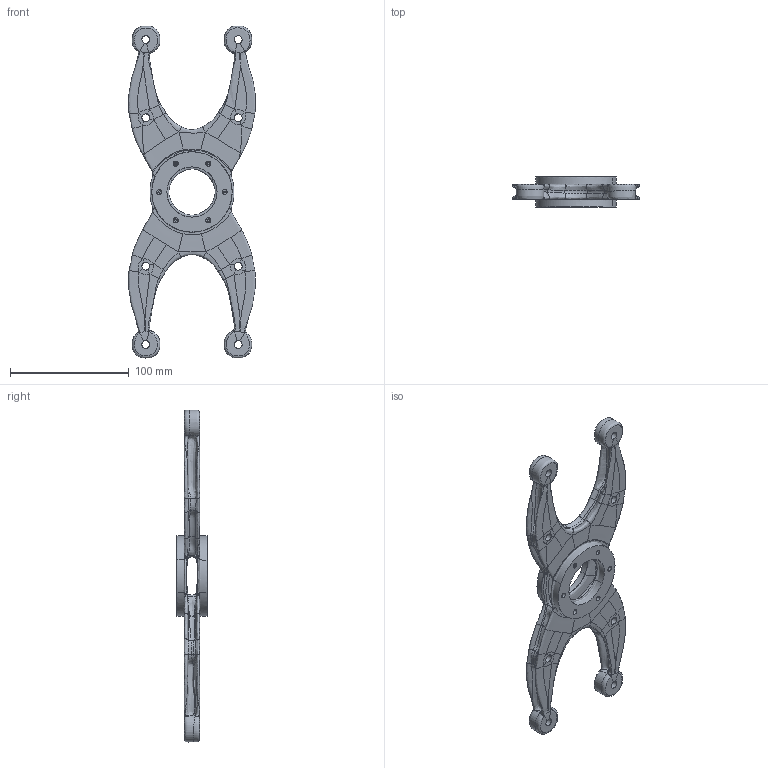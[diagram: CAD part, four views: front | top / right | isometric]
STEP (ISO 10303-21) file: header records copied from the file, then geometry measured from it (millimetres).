
FILE_DESCRIPTION(('HOOPS Exchange Step'),'2;1');
FILE_NAME('C:\Users\ial53\OneDrive - Northern Arizona University\DARPA Drone Full Model\BP Optimized Final.stp','2026-03-29T19:30:26+17:00',('ial53'),('Unknown organisation'),'HOOPS Exchange 2024.6','HOOPS Exchange','Unknown authorisation');
FILE_SCHEMA( ('AUTOMOTIVE_DESIGN { 1 0 10303 214 1 1 1 1 }') );
Length unit declared in the file: millimetre
Products named in the file (1): Patch body
Bounding box: 107.2 x 25.4 x 280.13 mm (x, y, z)
Volume: 168132.7 mm3; surface area: 58555.1 mm2
Topology: 1 solids, 1 shells, 374 faces, 859 edges, 476 vertices
Faces by surface type: bspline 364, cylinder 8, plane 2
Full cylindrical faces by diameter (mm): 6.604 x8
Entity records: 355893 total; most frequent: CARTESIAN_POINT 350279, ORIENTED_EDGE 1712, EDGE_CURVE 856, B_SPLINE_CURVE_WITH_KNOTS 816, VERTEX_POINT 476, EDGE_LOOP 388, FACE_BOUND 388, ADVANCED_FACE 374
